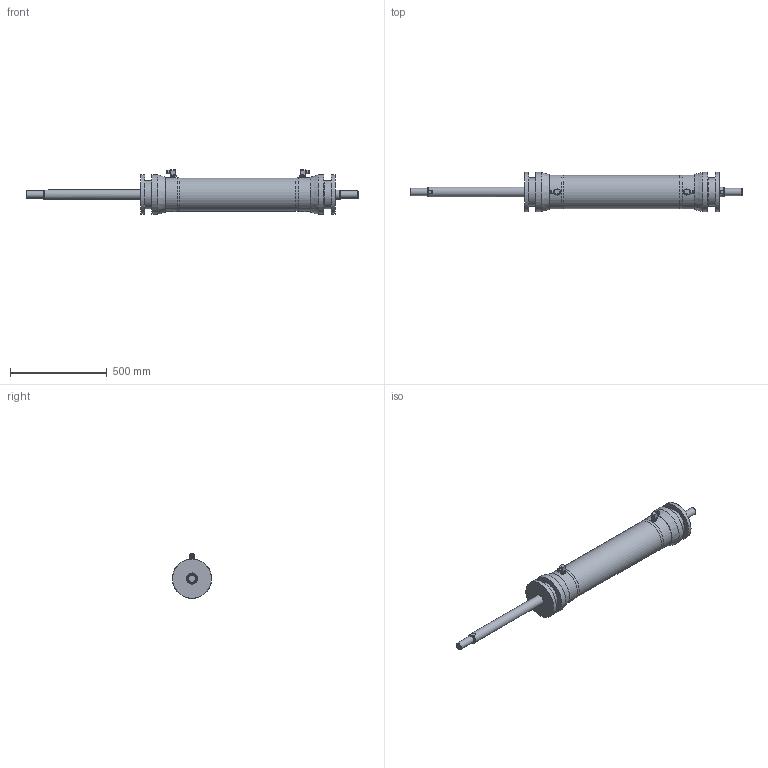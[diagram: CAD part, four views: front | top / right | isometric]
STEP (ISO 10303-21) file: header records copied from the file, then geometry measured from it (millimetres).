
FILE_DESCRIPTION(/* description */ (''),/* implementation_level */ '2;1');
FILE_NAME(/* name */ 'C:\STP.CR\TDA-71_Simplify_1 Rev1.stp',/* time_stamp */ '2021-11-03T14:02:15+00:00',/* author */ ('AL'),/* organization */ (''),/* preprocessor_version */ 'ST-DEVELOPER v18.1',/* originating_system */ 'Autodesk Inventor 2022',/* authorisation */ '');
FILE_SCHEMA (('AUTOMOTIVE_DESIGN { 1 0 10303 214 3 1 1 }'));
Length unit declared in the file: millimetre
Products named in the file (1): TDA-71_Simplify_1
Bounding box: 1717.2 x 203.4 x 230.8 mm (x, y, z)
Volume: 25491407.5 mm3; surface area: 846308.9 mm2
Topology: 1 solids, 1 shells, 189 faces, 401 edges, 246 vertices
Faces by surface type: plane 84, cylinder 51, cone 38, torus 16
Full cylindrical faces by diameter (mm): 18.01 x4, 18.9 x2, 19.01 x2, 19.11 x2, 19.9 x2, 20.9 x4, 27.8 x4, 35.649 x2, 38.049 x2, 50 x2, 52 x2, 54 x2, 58 x2, 58.6 x2, 146 x2, 171.4 x1, 174.4 x2, 203.4 x4
Entity records: 5411 total; most frequent: CARTESIAN_POINT 1049, DIRECTION 911, ORIENTED_EDGE 802, EDGE_CURVE 401, AXIS2_PLACEMENT_3D 370, VERTEX_POINT 246, EDGE_LOOP 221, STYLED_ITEM 190
